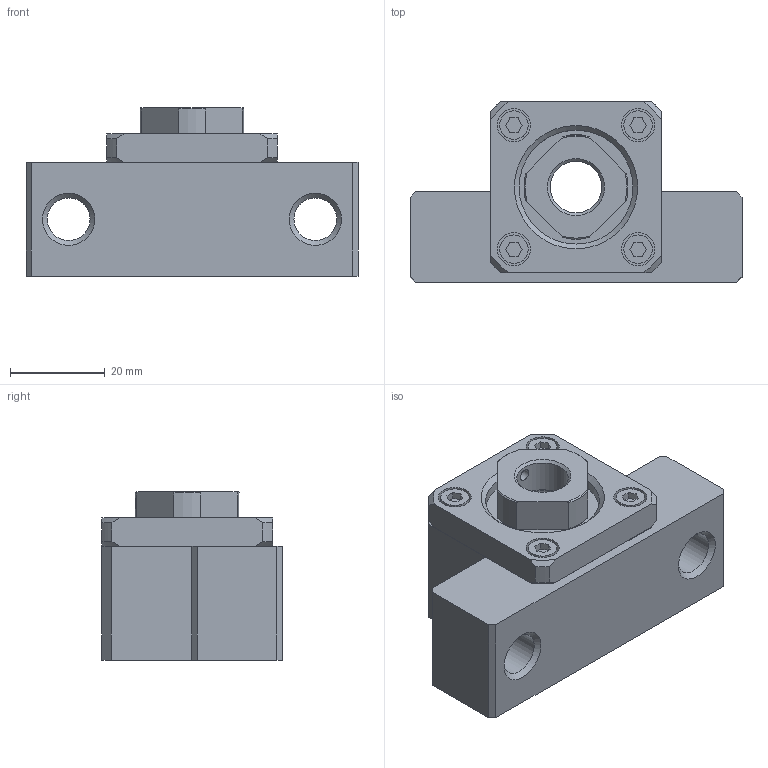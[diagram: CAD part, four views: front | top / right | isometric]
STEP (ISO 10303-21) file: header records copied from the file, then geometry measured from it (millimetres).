
FILE_DESCRIPTION(/* description */ ('STEP AP214'),/* implementation_level */ '2;1');
FILE_NAME(/* name */ 'EK12L______CAD_NO_Yes',/* time_stamp */ '2026-09-17T12:56:15+02:00',/* author */ ('License CC BY-ND 4.0'),/* organization */ ('CADENAS'),/* preprocessor_version */ 'ST-DEVELOPER v20',/* originating_system */ 'PARTsolutions',/* authorisation */ ' ');
FILE_SCHEMA (('AUTOMOTIVE_DESIGN {1 0 10303 214 3 1 1}'));
Length unit declared in the file: millimetre
Products named in the file (4): EK12L______CAD_NO_Yes; EK 12L; EK 12Lcollar; RN 12
Assembly tree (4 placements, depth 2):
  EK12L______CAD_NO_Yes
    EK 12L
    EK 12Lcollar  x2
    RN 12
Bounding box: 70 x 38 x 35.5 mm (x, y, z)
Volume: 50617.6 mm3; surface area: 14770 mm2
Topology: 4 solids, 4 shells, 147 faces, 345 edges, 228 vertices
Faces by surface type: plane 90, cylinder 32, cone 25
Full cylindrical faces by diameter (mm): 2.459 x1, 3 x1, 6 x4, 7 x4, 9 x2, 10.917 x1, 12 x3, 14.9 x4, 17 x1, 24 x2, 24.1 x1
Entity records: 4119 total; most frequent: CARTESIAN_POINT 814, DIRECTION 650, ORIENTED_EDGE 610, EDGE_CURVE 305, AXIS2_PLACEMENT_3D 239, VERTEX_POINT 221, EDGE_LOOP 206, FACE_BOUND 206
